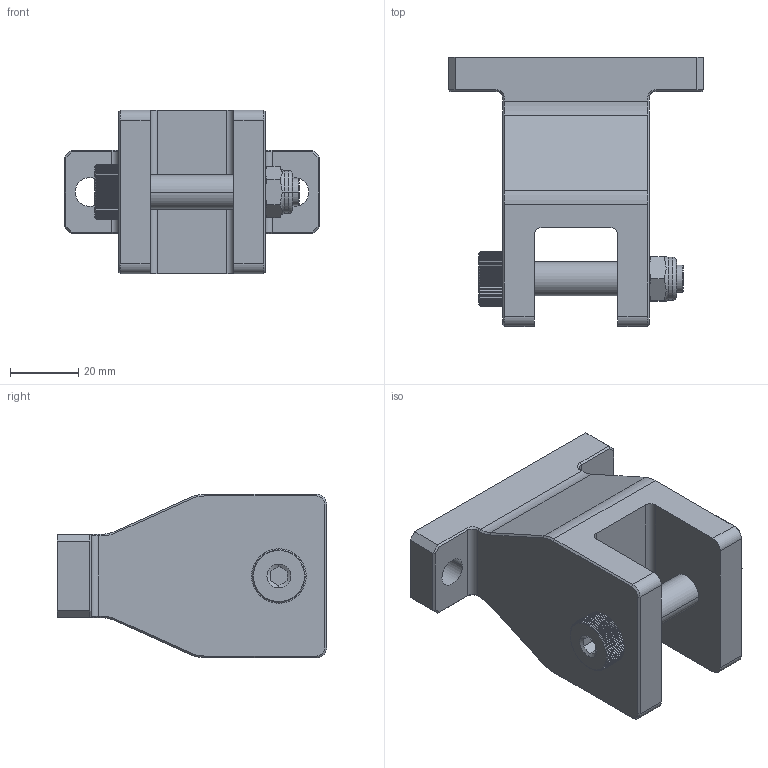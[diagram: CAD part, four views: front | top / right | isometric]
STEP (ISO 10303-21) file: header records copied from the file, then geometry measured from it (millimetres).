
FILE_DESCRIPTION((''),'2;1');
FILE_NAME('6158121570','2017-08-25T',('greextsd'),(''),'CREO PARAMETRIC BY PTC INC, 2017020','CREO PARAMETRIC BY PTC INC, 2017020','');
FILE_SCHEMA(('AUTOMOTIVE_DESIGN { 1 0 10303 214 1 1 1 1 }'));
Length unit declared in the file: millimetre
Products named in the file (1): 6158121570
Bounding box: 75 x 79 x 48 mm (x, y, z)
Volume: 111600.2 mm3; surface area: 21469.1 mm2
Topology: 1 solids, 1 shells, 416 faces, 1180 edges, 770 vertices
Faces by surface type: plane 262, cylinder 122, cone 28, torus 4
Entity records: 17278 total; most frequent: CARTESIAN_POINT 3442, ORIENTED_EDGE 2360, DIRECTION 2064, EDGE_CURVE 1180, VERTEX_POINT 770, AXIS2_PLACEMENT_3D 694, VECTOR 676, LINE 676
